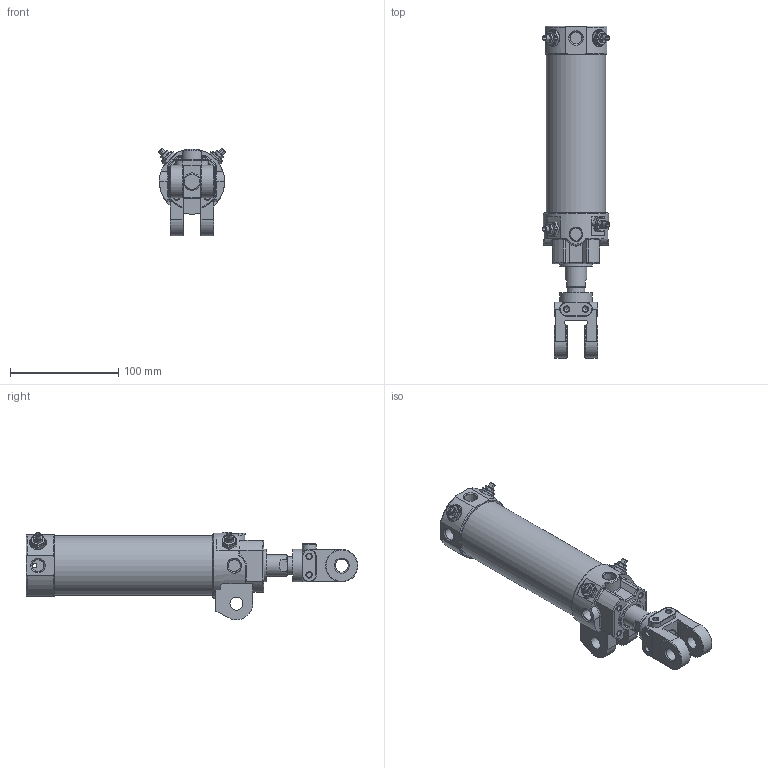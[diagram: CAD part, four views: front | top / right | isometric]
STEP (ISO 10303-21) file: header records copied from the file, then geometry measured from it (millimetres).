
FILE_DESCRIPTION((''),'2;1');
FILE_NAME('I:\3D電子目錄\氣缸\DCK\DCK\DCK-1A-50x150-Y.stp','2008-02-26T14:48:04',('Administrator'),(''),'Autodesk Inventor 11','Autodesk Inventor 11','');
FILE_SCHEMA(('AUTOMOTIVE_DESIGN { 1 0 10303 214 1 1 1 1 }'));
Length unit declared in the file: millimetre
Products named in the file (6): DCK-1A-50-Y; 緩衝針; 緩衝針-1; 緩衝針-201; 緩衝針-3
Assembly tree (8 placements, depth 3):
  DCK-1A-50-Y
    DCK-1A-50-Y
    緩衝針  x4
      緩衝針-1
      緩衝針-201
      緩衝針-3
Bounding box: 61.76 x 306 x 80.87 mm (x, y, z)
Volume: 284561.2 mm3; surface area: 120809.4 mm2
Topology: 15 solids, 15 shells, 649 faces, 1461 edges, 910 vertices
Faces by surface type: plane 240, cylinder 188, cone 145, bspline 40, torus 36
Full cylindrical faces by diameter (mm): 2 x2, 3 x4, 3.8 x2, 4 x6, 4.6 x4, 4.917 x2, 5 x8, 5.1 x4, 5.2 x12, 5.5 x4, 7.25 x1, 7.9 x4, 8 x2, 10.3 x1, 11.3 x1, 12 x6, 12.8 x4, 16 x3, 20 x1, 21 x1, 22 x2, 23 x1, 24.7 x1, 26 x1, 27 x1, 28 x1, 29 x1, 30 x4, 33 x1, 49.5 x1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
Entity records: 14035 total; most frequent: CARTESIAN_POINT 5596, DIRECTION 1733, ORIENTED_EDGE 1524, EDGE_CURVE 762, AXIS2_PLACEMENT_3D 745, EDGE_LOOP 614, VERTEX_POINT 550, FACE_OUTER_BOUND 400
